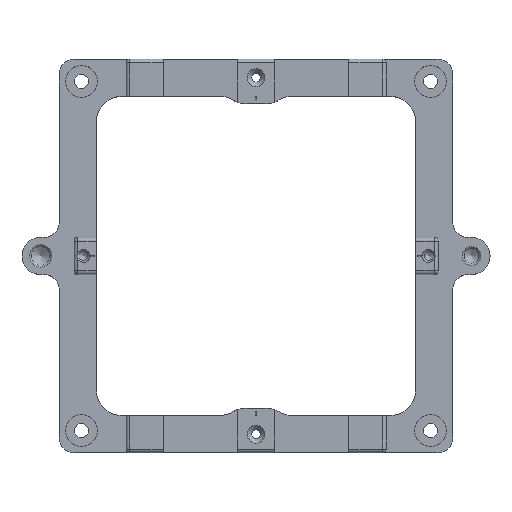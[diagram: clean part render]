
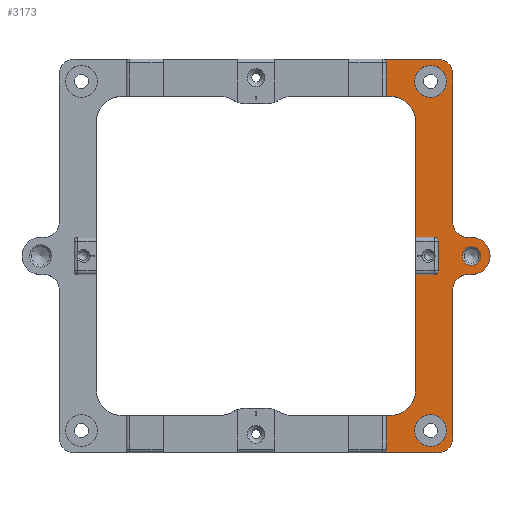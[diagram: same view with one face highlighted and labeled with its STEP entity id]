
A CAD part, top view. The second image highlights one B-rep face of the part: STEP entity #3173.
In plain terms, the highlighted planar face has unit normal (0, 0, 1).
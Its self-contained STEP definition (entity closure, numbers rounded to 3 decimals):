
#57=FACE_BOUND('',#463,.T.);
#58=FACE_BOUND('',#464,.T.);
#59=FACE_BOUND('',#465,.T.);
#139=PLANE('',#3457);
#269=FACE_OUTER_BOUND('',#462,.T.);
#462=EDGE_LOOP('',(#2525,#2526,#2527,#2528,#2529,#2530,#2531,#2532,#2533,
#2534,#2535,#2536,#2537,#2538,#2539,#2540,#2541,#2542,#2543,#2544,#2545,
#2546,#2547,#2548,#2549,#2550));
#463=EDGE_LOOP('',(#2551));
#464=EDGE_LOOP('',(#2552));
#465=EDGE_LOOP('',(#2553));
#611=LINE('',#4691,#900);
#629=LINE('',#4748,#918);
#668=LINE('',#4926,#957);
#674=LINE('',#4937,#963);
#685=LINE('',#4973,#974);
#720=LINE('',#5057,#1009);
#768=LINE('',#5743,#1057);
#769=LINE('',#5745,#1058);
#770=LINE('',#5750,#1059);
#771=LINE('',#5754,#1060);
#772=LINE('',#5758,#1061);
#773=LINE('',#5762,#1062);
#774=LINE('',#5764,#1063);
#775=LINE('',#5768,#1064);
#776=LINE('',#5769,#1065);
#900=VECTOR('',#3726,10.);
#918=VECTOR('',#3782,10.);
#957=VECTOR('',#3865,10.);
#963=VECTOR('',#3873,10.);
#974=VECTOR('',#3908,10.);
#1009=VECTOR('',#3971,10.);
#1057=VECTOR('',#4131,10.);
#1058=VECTOR('',#4132,10.);
#1059=VECTOR('',#4137,10.);
#1060=VECTOR('',#4140,10.);
#1061=VECTOR('',#4143,10.);
#1062=VECTOR('',#4146,10.);
#1063=VECTOR('',#4149,10.);
#1064=VECTOR('',#4152,10.);
#1065=VECTOR('',#4153,10.);
#1180=CIRCLE('',#3324,1.);
#1187=CIRCLE('',#3336,1.);
#1208=CIRCLE('',#3372,1.);
#1214=CIRCLE('',#3385,1.);
#1247=CIRCLE('',#3456,2.5);
#1248=CIRCLE('',#3458,7.);
#1249=CIRCLE('',#3459,4.);
#1250=CIRCLE('',#3460,4.);
#1251=CIRCLE('',#3461,5.);
#1252=CIRCLE('',#3462,4.);
#1253=CIRCLE('',#3463,4.);
#1254=CIRCLE('',#3464,7.);
#1255=CIRCLE('',#3465,4.3);
#1256=CIRCLE('',#3466,4.3);
#1336=VERTEX_POINT('',#4647);
#1337=VERTEX_POINT('',#4649);
#1348=VERTEX_POINT('',#4690);
#1350=VERTEX_POINT('',#4696);
#1367=VERTEX_POINT('',#4745);
#1368=VERTEX_POINT('',#4747);
#1405=VERTEX_POINT('',#4903);
#1412=VERTEX_POINT('',#4923);
#1413=VERTEX_POINT('',#4925);
#1425=VERTEX_POINT('',#4958);
#1426=VERTEX_POINT('',#4959);
#1430=VERTEX_POINT('',#4972);
#1464=VERTEX_POINT('',#5054);
#1465=VERTEX_POINT('',#5056);
#1524=VERTEX_POINT('',#5738);
#1525=VERTEX_POINT('',#5742);
#1526=VERTEX_POINT('',#5744);
#1527=VERTEX_POINT('',#5747);
#1528=VERTEX_POINT('',#5749);
#1529=VERTEX_POINT('',#5751);
#1530=VERTEX_POINT('',#5753);
#1531=VERTEX_POINT('',#5755);
#1532=VERTEX_POINT('',#5757);
#1533=VERTEX_POINT('',#5759);
#1534=VERTEX_POINT('',#5761);
#1535=VERTEX_POINT('',#5765);
#1536=VERTEX_POINT('',#5767);
#1537=VERTEX_POINT('',#5770);
#1538=VERTEX_POINT('',#5772);
#1654=EDGE_CURVE('',#1336,#1337,#1180,.F.);
#1670=EDGE_CURVE('',#1337,#1348,#611,.T.);
#1673=EDGE_CURVE('',#1348,#1350,#1187,.F.);
#1698=EDGE_CURVE('',#1367,#1368,#629,.T.);
#1742=EDGE_CURVE('',#1368,#1405,#1208,.F.);
#1754=EDGE_CURVE('',#1412,#1413,#668,.T.);
#1760=EDGE_CURVE('',#1405,#1412,#674,.T.);
#1770=EDGE_CURVE('',#1425,#1426,#1214,.F.);
#1777=EDGE_CURVE('',#1426,#1430,#685,.T.);
#1820=EDGE_CURVE('',#1464,#1465,#720,.T.);
#1910=EDGE_CURVE('',#1524,#1524,#1247,.T.);
#1911=EDGE_CURVE('',#1525,#1336,#768,.T.);
#1912=EDGE_CURVE('',#1526,#1525,#769,.T.);
#1913=EDGE_CURVE('',#1413,#1526,#1248,.T.);
#1914=EDGE_CURVE('',#1527,#1367,#1249,.T.);
#1915=EDGE_CURVE('',#1528,#1527,#770,.T.);
#1916=EDGE_CURVE('',#1529,#1528,#1250,.T.);
#1917=EDGE_CURVE('',#1530,#1529,#771,.T.);
#1918=EDGE_CURVE('',#1531,#1530,#1251,.T.);
#1919=EDGE_CURVE('',#1532,#1531,#772,.T.);
#1920=EDGE_CURVE('',#1533,#1532,#1252,.T.);
#1921=EDGE_CURVE('',#1534,#1533,#773,.T.);
#1922=EDGE_CURVE('',#1430,#1534,#1253,.T.);
#1923=EDGE_CURVE('',#1465,#1425,#774,.T.);
#1924=EDGE_CURVE('',#1535,#1464,#1254,.T.);
#1925=EDGE_CURVE('',#1536,#1535,#775,.T.);
#1926=EDGE_CURVE('',#1350,#1536,#776,.T.);
#1927=EDGE_CURVE('',#1537,#1537,#1255,.T.);
#1928=EDGE_CURVE('',#1538,#1538,#1256,.T.);
#2525=ORIENTED_EDGE('',*,*,#1911,.F.);
#2526=ORIENTED_EDGE('',*,*,#1912,.F.);
#2527=ORIENTED_EDGE('',*,*,#1913,.F.);
#2528=ORIENTED_EDGE('',*,*,#1754,.F.);
#2529=ORIENTED_EDGE('',*,*,#1760,.F.);
#2530=ORIENTED_EDGE('',*,*,#1742,.F.);
#2531=ORIENTED_EDGE('',*,*,#1698,.F.);
#2532=ORIENTED_EDGE('',*,*,#1914,.F.);
#2533=ORIENTED_EDGE('',*,*,#1915,.F.);
#2534=ORIENTED_EDGE('',*,*,#1916,.F.);
#2535=ORIENTED_EDGE('',*,*,#1917,.F.);
#2536=ORIENTED_EDGE('',*,*,#1918,.F.);
#2537=ORIENTED_EDGE('',*,*,#1919,.F.);
#2538=ORIENTED_EDGE('',*,*,#1920,.F.);
#2539=ORIENTED_EDGE('',*,*,#1921,.F.);
#2540=ORIENTED_EDGE('',*,*,#1922,.F.);
#2541=ORIENTED_EDGE('',*,*,#1777,.F.);
#2542=ORIENTED_EDGE('',*,*,#1770,.F.);
#2543=ORIENTED_EDGE('',*,*,#1923,.F.);
#2544=ORIENTED_EDGE('',*,*,#1820,.F.);
#2545=ORIENTED_EDGE('',*,*,#1924,.F.);
#2546=ORIENTED_EDGE('',*,*,#1925,.F.);
#2547=ORIENTED_EDGE('',*,*,#1926,.F.);
#2548=ORIENTED_EDGE('',*,*,#1673,.F.);
#2549=ORIENTED_EDGE('',*,*,#1670,.F.);
#2550=ORIENTED_EDGE('',*,*,#1654,.F.);
#2551=ORIENTED_EDGE('',*,*,#1927,.F.);
#2552=ORIENTED_EDGE('',*,*,#1928,.F.);
#2553=ORIENTED_EDGE('',*,*,#1910,.F.);
#3173=ADVANCED_FACE('',(#269,#57,#58,#59),#139,.T.);
#3324=AXIS2_PLACEMENT_3D('',#4650,#3698,#3699);
#3336=AXIS2_PLACEMENT_3D('',#4697,#3732,#3733);
#3372=AXIS2_PLACEMENT_3D('',#4904,#3848,#3849);
#3385=AXIS2_PLACEMENT_3D('',#4960,#3896,#3897);
#3456=AXIS2_PLACEMENT_3D('',#5740,#4127,#4128);
#3457=AXIS2_PLACEMENT_3D('',#5741,#4129,#4130);
#3458=AXIS2_PLACEMENT_3D('',#5746,#4133,#4134);
#3459=AXIS2_PLACEMENT_3D('',#5748,#4135,#4136);
#3460=AXIS2_PLACEMENT_3D('',#5752,#4138,#4139);
#3461=AXIS2_PLACEMENT_3D('',#5756,#4141,#4142);
#3462=AXIS2_PLACEMENT_3D('',#5760,#4144,#4145);
#3463=AXIS2_PLACEMENT_3D('',#5763,#4147,#4148);
#3464=AXIS2_PLACEMENT_3D('',#5766,#4150,#4151);
#3465=AXIS2_PLACEMENT_3D('',#5771,#4154,#4155);
#3466=AXIS2_PLACEMENT_3D('',#5773,#4156,#4157);
#3698=DIRECTION('center_axis',(0.,0.,-1.));
#3699=DIRECTION('ref_axis',(0.707,-0.707,0.));
#3726=DIRECTION('',(0.,1.,0.));
#3732=DIRECTION('center_axis',(0.,0.,-1.));
#3733=DIRECTION('ref_axis',(0.707,0.707,0.));
#3782=DIRECTION('',(-1.,0.,0.));
#3848=DIRECTION('center_axis',(0.,0.,-1.));
#3849=DIRECTION('ref_axis',(0.707,-0.707,0.));
#3865=DIRECTION('',(1.,0.,0.));
#3873=DIRECTION('',(0.,1.,0.));
#3896=DIRECTION('center_axis',(0.,0.,-1.));
#3897=DIRECTION('ref_axis',(0.707,0.707,0.));
#3908=DIRECTION('',(1.,0.,0.));
#3971=DIRECTION('',(-1.,0.,0.));
#4127=DIRECTION('center_axis',(0.,0.,1.));
#4128=DIRECTION('ref_axis',(-1.,0.,0.));
#4129=DIRECTION('center_axis',(0.,0.,1.));
#4130=DIRECTION('ref_axis',(1.,0.,0.));
#4131=DIRECTION('',(1.,0.,0.));
#4132=DIRECTION('',(0.,1.,0.));
#4133=DIRECTION('center_axis',(0.,0.,1.));
#4134=DIRECTION('ref_axis',(0.707,-0.707,0.));
#4135=DIRECTION('center_axis',(0.,0.,-1.));
#4136=DIRECTION('ref_axis',(0.707,-0.707,0.));
#4137=DIRECTION('',(0.,-1.,0.));
#4138=DIRECTION('center_axis',(0.,0.,1.));
#4139=DIRECTION('ref_axis',(-0.707,0.707,0.));
#4140=DIRECTION('',(-1.,0.,0.));
#4141=DIRECTION('center_axis',(0.,0.,-1.));
#4142=DIRECTION('ref_axis',(0.,-1.,0.));
#4143=DIRECTION('',(1.,0.,0.));
#4144=DIRECTION('center_axis',(0.,0.,1.));
#4145=DIRECTION('ref_axis',(-0.707,-0.707,0.));
#4146=DIRECTION('',(0.,-1.,0.));
#4147=DIRECTION('center_axis',(0.,0.,-1.));
#4148=DIRECTION('ref_axis',(0.707,0.707,0.));
#4149=DIRECTION('',(0.,1.,0.));
#4150=DIRECTION('center_axis',(0.,0.,1.));
#4151=DIRECTION('ref_axis',(0.707,0.707,0.));
#4152=DIRECTION('',(0.,1.,0.));
#4153=DIRECTION('',(-1.,0.,0.));
#4154=DIRECTION('center_axis',(0.,0.,1.));
#4155=DIRECTION('ref_axis',(1.,0.,0.));
#4156=DIRECTION('center_axis',(0.,0.,1.));
#4157=DIRECTION('ref_axis',(1.,0.,0.));
#4647=CARTESIAN_POINT('',(48.,-5.,9.8));
#4649=CARTESIAN_POINT('',(49.,-4.,9.8));
#4650=CARTESIAN_POINT('Origin',(48.,-4.,9.8));
#4690=CARTESIAN_POINT('',(49.,4.,9.8));
#4691=CARTESIAN_POINT('',(49.,5.,9.8));
#4696=CARTESIAN_POINT('',(48.,5.,9.8));
#4697=CARTESIAN_POINT('Origin',(48.,4.,9.8));
#4745=CARTESIAN_POINT('',(49.,-53.,9.8));
#4747=CARTESIAN_POINT('',(34.,-53.,9.8));
#4748=CARTESIAN_POINT('',(-2.,-53.,9.8));
#4903=CARTESIAN_POINT('',(35.,-52.,9.8));
#4904=CARTESIAN_POINT('Origin',(34.,-52.,9.8));
#4923=CARTESIAN_POINT('',(35.,-43.,9.8));
#4925=CARTESIAN_POINT('',(36.,-43.,9.8));
#4926=CARTESIAN_POINT('',(22.,-43.,9.8));
#4937=CARTESIAN_POINT('',(35.,-43.,9.8));
#4958=CARTESIAN_POINT('',(35.,52.,9.8));
#4959=CARTESIAN_POINT('',(34.,53.,9.8));
#4960=CARTESIAN_POINT('Origin',(34.,52.,9.8));
#4972=CARTESIAN_POINT('',(49.,53.,9.8));
#4973=CARTESIAN_POINT('',(51.,53.,9.8));
#5054=CARTESIAN_POINT('',(36.,43.,9.8));
#5056=CARTESIAN_POINT('',(35.,43.,9.8));
#5057=CARTESIAN_POINT('',(3.,43.,9.8));
#5738=CARTESIAN_POINT('',(60.5,0.,9.8));
#5740=CARTESIAN_POINT('Origin',(58.,0.,9.8));
#5741=CARTESIAN_POINT('Origin',(49.,0.,9.8));
#5742=CARTESIAN_POINT('',(43.,-5.,9.8));
#5743=CARTESIAN_POINT('',(49.,-5.,9.8));
#5744=CARTESIAN_POINT('',(43.,-36.,9.8));
#5745=CARTESIAN_POINT('',(43.,21.5,9.8));
#5746=CARTESIAN_POINT('Origin',(36.,-36.,9.8));
#5747=CARTESIAN_POINT('',(53.,-49.,9.8));
#5748=CARTESIAN_POINT('Origin',(49.,-49.,9.8));
#5749=CARTESIAN_POINT('',(53.,-9.,9.8));
#5750=CARTESIAN_POINT('',(53.,-26.5,9.8));
#5751=CARTESIAN_POINT('',(57.,-5.,9.8));
#5752=CARTESIAN_POINT('Origin',(57.,-9.,9.8));
#5753=CARTESIAN_POINT('',(58.,-5.,9.8));
#5754=CARTESIAN_POINT('',(51.,-5.,9.8));
#5755=CARTESIAN_POINT('',(58.,5.,9.8));
#5756=CARTESIAN_POINT('Origin',(58.,0.,9.8));
#5757=CARTESIAN_POINT('',(57.,5.,9.8));
#5758=CARTESIAN_POINT('',(53.5,5.,9.8));
#5759=CARTESIAN_POINT('',(53.,9.,9.8));
#5760=CARTESIAN_POINT('Origin',(57.,9.,9.8));
#5761=CARTESIAN_POINT('',(53.,49.,9.8));
#5762=CARTESIAN_POINT('',(53.,-26.5,9.8));
#5763=CARTESIAN_POINT('Origin',(49.,49.,9.8));
#5764=CARTESIAN_POINT('',(35.,53.,9.8));
#5765=CARTESIAN_POINT('',(43.,36.,9.8));
#5766=CARTESIAN_POINT('Origin',(36.,36.,9.8));
#5767=CARTESIAN_POINT('',(43.,5.,9.8));
#5768=CARTESIAN_POINT('',(43.,21.5,9.8));
#5769=CARTESIAN_POINT('',(43.,5.,9.8));
#5770=CARTESIAN_POINT('',(42.7,-47.,9.8));
#5771=CARTESIAN_POINT('Origin',(47.,-47.,9.8));
#5772=CARTESIAN_POINT('',(42.7,47.,9.8));
#5773=CARTESIAN_POINT('Origin',(47.,47.,9.8));
